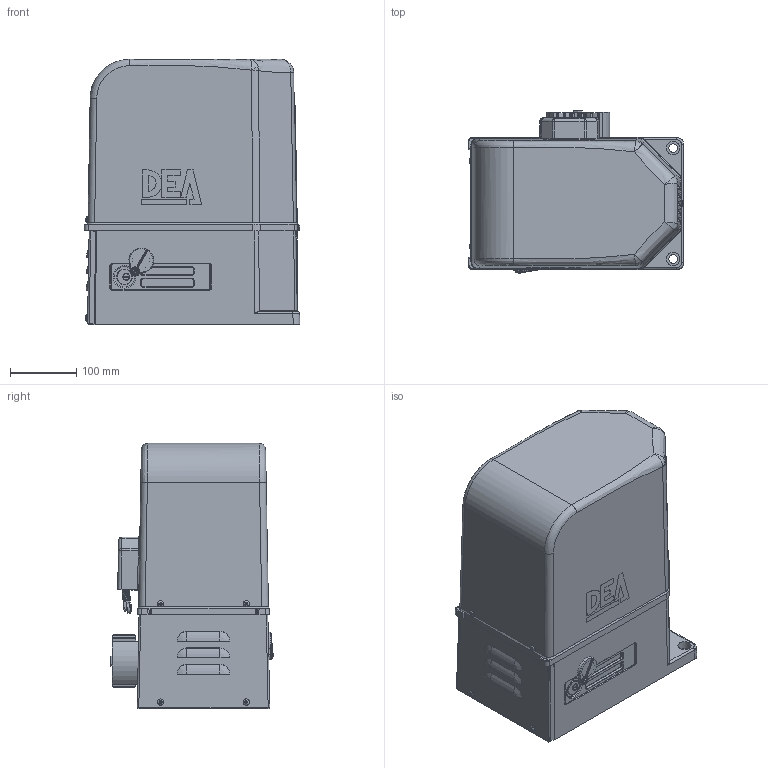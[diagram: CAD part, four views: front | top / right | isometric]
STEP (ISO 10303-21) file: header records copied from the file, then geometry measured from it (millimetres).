
FILE_DESCRIPTION(/* description */ ('Unknown'),/* implementation_level */ '2;1');
FILE_NAME(/* name */ 'GULLIVER',/* time_stamp */ '2021-02-25T12:21:56+01:00',/* author */ ('Unknown'),/* organization */ ('Unknown'),/* preprocessor_version */ 'ST-DEVELOPER v16.7',/* originating_system */ 'DEX',/* authorisation */ $);
FILE_SCHEMA (('AUTOMOTIVE_DESIGN {1 0 10303 214 3 1 1}'));
Products named in the file (39): 613210; 445220_oa_0; 310250; 132088; 134302; 310170; 330290; 320040; 136000_oa_1; 136000 P1; 310260; 132005; 360410; 131404; 132205; 184009; 480272; 132450; 131502; 370310; 320360; 320370; 330230; 320340; 381270; 320350; 370240; 131253; 164017; 134515; 134505; 320102; 320100_oa_2; 320110; 134216; 328105; 380520; 134305; 134304
Assembly tree (55 placements, depth 4):
  613210
    445220_oa_0
      310250
      132088
      134302
      310170
      330290
      320040
      136000_oa_1
        136000 P1
      310260
      132005  x6
      360410
      131404
      132205
    184009
    480272
      132450
      131502  x2
      370310
      320360
      320370
      330230
      320340
      381270
      320350
      370240
      131253
      164017  x2
      134515  x4
    134505  x2
    320102
      320100_oa_2
    320110
    134216  x4
    328105
    380520
    134305  x3
    134304  x2
Bounding box: 326.61 x 246.82 x 402 mm (x, y, z)
Volume: 4482849.2 mm3; surface area: 1768175.7 mm2
Topology: 52 solids, 53 shells, 3599 faces, 8736 edges, 5330 vertices
Faces by surface type: plane 2007, cylinder 943, bspline 187, torus 183, cone 158, sphere 121
Full cylindrical faces by diameter (mm): 2 x14, 2.5 x4, 3 x10, 3.1 x4, 3.2 x2, 3.25 x1, 3.5 x2, 3.9 x1, 4 x4, 4.2 x5, 4.25 x4, 4.5 x5, 4.8 x5, 5 x18, 5.25 x1, 5.5 x8, 5.6 x4, 6 x20, 6.4 x2, 6.498 x1, 6.5 x6, 6.8 x2, 7 x7, 7.5 x4, 7.7 x1, 8 x13, 8.5 x1, 9 x2, 9.5 x6, 10 x8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
Entity records: 118605 total; most frequent: CARTESIAN_POINT 35153, DIRECTION 15329, ORIENTED_EDGE 14582, EDGE_CURVE 7291, AXIS2_PLACEMENT_3D 5557, VERTEX_POINT 4702, LINE 4215, VECTOR 4215
